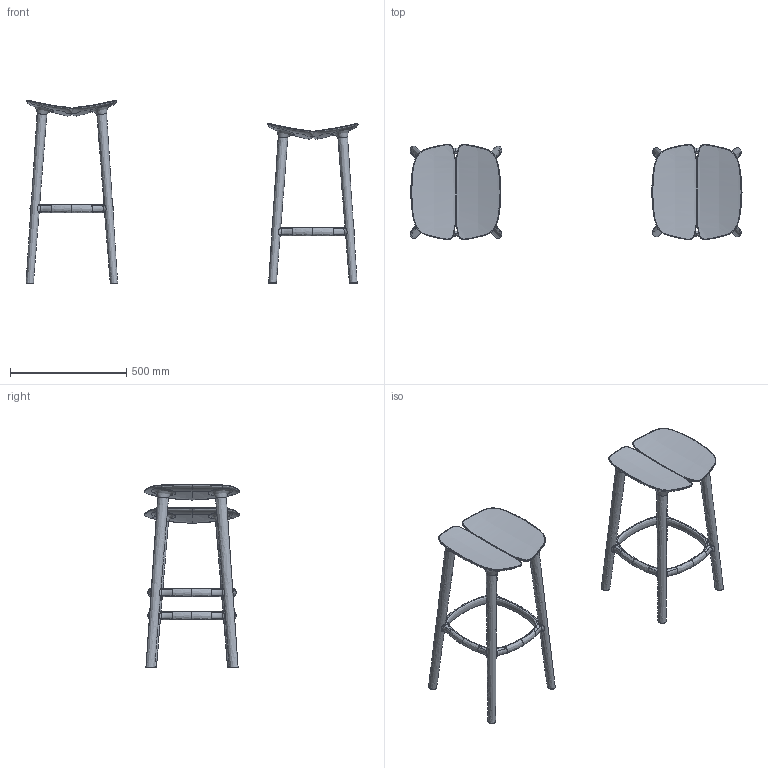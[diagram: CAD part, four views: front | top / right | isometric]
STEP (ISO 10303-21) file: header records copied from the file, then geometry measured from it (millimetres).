
FILE_DESCRIPTION(/* description */ (''),/* implementation_level */ '2;1');
FILE_NAME(/* name */ 'MC03_O~1',/* time_stamp */ '2021-05-25T10:23:23+02:00',/* author */ (''),/* organization */ (''),/* preprocessor_version */ 'ST-DEVELOPER v16.5',/* originating_system */ '',/* authorisation */ '');
FILE_SCHEMA (('AUTOMOTIVE_DESIGN'));
Products named in the file (1): Document
Bounding box: 1429.78 x 410.02 x 789.68 mm (x, y, z)
Surface area: 1541024.3 mm2 (no closed solid volume)
Topology: 0 solids, 243 shells, 251 faces, 1107 edges, 1065 vertices
Faces by surface type: bspline 251
Entity records: 428615 total; most frequent: CARTESIAN_POINT 418132, B_SPLINE_CURVE_WITH_KNOTS 2098, ORIENTED_EDGE 1133, PCURVE 1133, DEFINITIONAL_REPRESENTATION 1133, SURFACE_CURVE 1099, EDGE_CURVE 1099, VERTEX_POINT 1065
